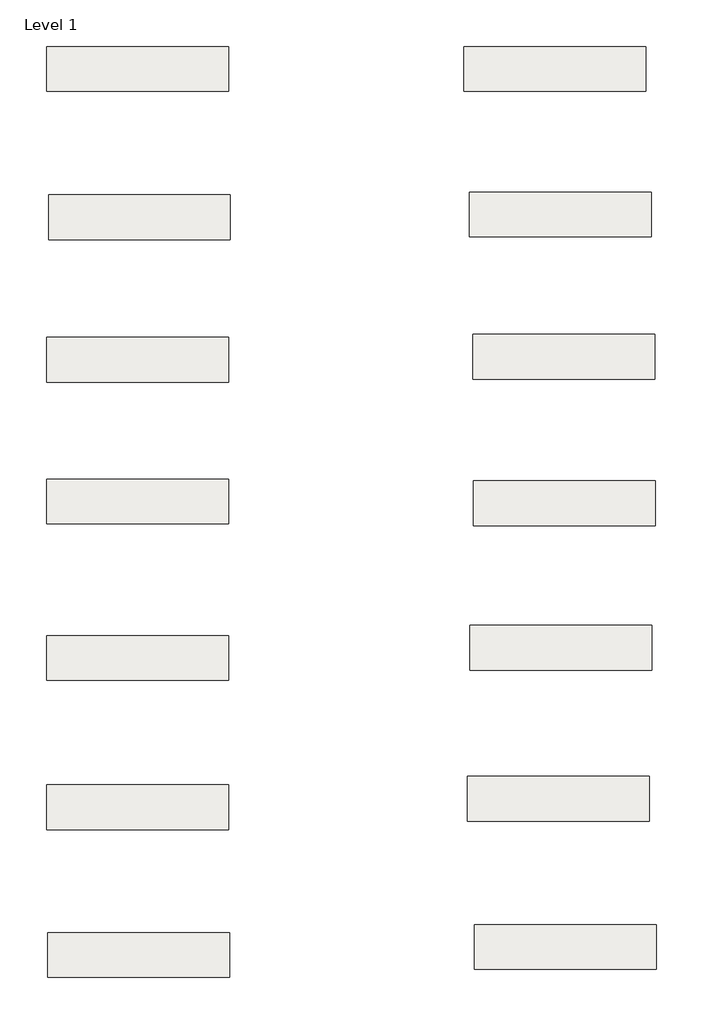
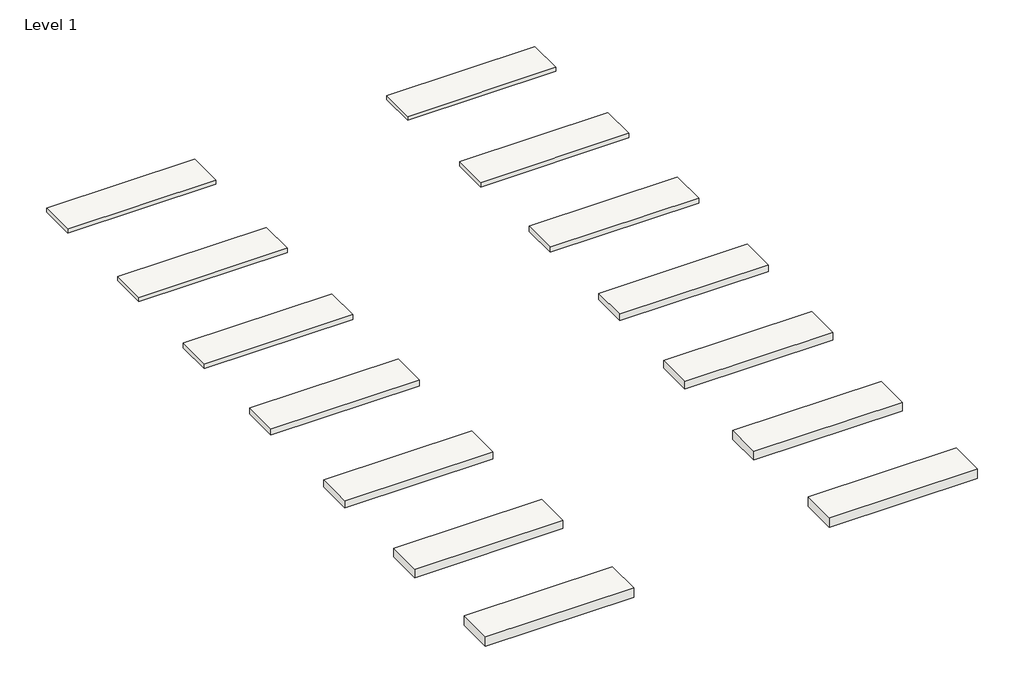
# One storey: 14 roofs.
"""IFC4 building model written with IfcOpenShell, lengths in millimetres."""

from ifc_helpers import new_model, si_unit, origin, origin_with_axes, place, context, project, spatial, polyline, outline, extrude, element, save

model = new_model("IFC4")

# Units and contexts
model_context = context("Model", 3, world=origin())
ifc_project = project(units=[si_unit("LENGTHUNIT", "METRE", prefix="MILLI")], contexts=[model_context])

# Site, building, storey
site = spatial("IfcSite", under=ifc_project)
building = spatial("IfcBuilding", under=site)
storey = spatial("IfcBuildingStorey", under=building, Name="Level 1", Elevation=0.0)

# Roofs
placement = place(None, origin())
element("IfcRoof", 1, ObjectType="Panel Thermochip TDMH 10-40-16 (2440x600)", at=placement, inside=storey, context=model_context, shape_type="SweptSolid", body=[
    extrude(outline(polyline([(-22078.9678788, 6399.8223879), (-19638.9678788, 6399.8223879), (-19638.9678788, 5799.8223879), (-22078.9678788, 5799.8223879), (-22078.9678788, 6399.8223879)])), origin_with_axes(), (0.0, 0.0, 1.0), 66.0),
])
element("IfcRoof", 2, ObjectType="Panel Thermochip TDMH 10-50-16 (2440x600)", at=placement, inside=storey, context=model_context, shape_type="SweptSolid", body=[
    extrude(outline(polyline([(-22052.6493894, 4410.3190053), (-19612.6493894, 4410.3190053), (-19612.6493894, 3810.3190053), (-22052.6493894, 3810.3190053), (-22052.6493894, 4410.3190053)])), origin_with_axes(), (0.0, 0.0, 1.0), 76.0),
])
element("IfcRoof", 3, ObjectType="Panel Thermochip TDMH 10-60-16 (2440x600)", at=placement, inside=storey, context=model_context, shape_type="SweptSolid", body=[
    extrude(outline(polyline([(-22078.9678788, 2499.8223879), (-19638.9678788, 2499.8223879), (-19638.9678788, 1899.8223879), (-22078.9678788, 1899.8223879), (-22078.9678788, 2499.8223879)])), origin_with_axes(), (0.0, 0.0, 1.0), 86.0),
])
element("IfcRoof", 4, ObjectType="Panel Thermochip TDMH 10-80-16 (2440x600)", at=placement, inside=storey, context=model_context, shape_type="SweptSolid", body=[
    extrude(outline(polyline([(-22078.9678788, 599.8223879), (-19638.9678788, 599.8223879), (-19638.9678788, -0.1776121), (-22078.9678788, -0.1776121), (-22078.9678788, 599.8223879)])), origin_with_axes(), (0.0, 0.0, 1.0), 106.0),
])
element("IfcRoof", 5, ObjectType="Panel Thermochip TDMH 10-100-16 (2440x600)", at=placement, inside=storey, context=model_context, shape_type="SweptSolid", body=[
    extrude(outline(polyline([(-22078.9678788, -1500.1776121), (-19638.9678788, -1500.1776121), (-19638.9678788, -2100.1776121), (-22078.9678788, -2100.1776121), (-22078.9678788, -1500.1776121)])), origin_with_axes(), (0.0, 0.0, 1.0), 126.0),
])
element("IfcRoof", 6, ObjectType="Panel Thermochip TDMH 10-120-16 (2440x600)", at=placement, inside=storey, context=model_context, shape_type="SweptSolid", body=[
    extrude(outline(polyline([(-22078.9678788, -3500.1776121), (-19638.9678788, -3500.1776121), (-19638.9678788, -4100.1776121), (-22078.9678788, -4100.1776121), (-22078.9678788, -3500.1776121)])), origin_with_axes(), (0.0, 0.0, 1.0), 146.0),
])
element("IfcRoof", 7, ObjectType="Panel Thermochip TDMH 10-140-16 (2440x600)", at=placement, inside=storey, context=model_context, shape_type="SweptSolid", body=[
    extrude(outline(polyline([(-22061.6630448, -5482.8727782), (-19621.6630448, -5482.8727782), (-19621.6630448, -6082.8727782), (-22061.6630448, -6082.8727782), (-22061.6630448, -5482.8727782)])), origin_with_axes(), (0.0, 0.0, 1.0), 166.0),
])
element("IfcRoof", 8, ObjectType="Panel Thermochip TDMH 10-40-19 (2440x600)", at=placement, inside=storey, context=model_context, shape_type="SweptSolid", body=[
    extrude(outline(polyline([(-16478.9678788, 6399.8223879), (-14038.9678788, 6399.8223879), (-14038.9678788, 5799.8223879), (-16478.9678788, 5799.8223879), (-16478.9678788, 6399.8223879)])), origin_with_axes(), (0.0, 0.0, 1.0), 69.0),
])
element("IfcRoof", 9, ObjectType="Panel Thermochip TDMH 10-50-19 (2440x600)", at=placement, inside=storey, context=model_context, shape_type="SweptSolid", body=[
    extrude(outline(polyline([(-16405.8564252, 4446.4134612), (-13965.8564252, 4446.4134612), (-13965.8564252, 3846.4134612), (-16405.8564252, 3846.4134612), (-16405.8564252, 4446.4134612)])), origin_with_axes(), (0.0, 0.0, 1.0), 79.0),
])
element("IfcRoof", 10, ObjectType="Panel Thermochip TDMH 10-60-19 (2440x600)", at=placement, inside=storey, context=model_context, shape_type="SweptSolid", body=[
    extrude(outline(polyline([(-16358.6086281, 2541.391354), (-13918.6086281, 2541.391354), (-13918.6086281, 1941.391354), (-16358.6086281, 1941.391354), (-16358.6086281, 2541.391354)])), origin_with_axes(), (0.0, 0.0, 1.0), 89.0),
])
element("IfcRoof", 11, ObjectType="Panel Thermochip TDMH 10-80-19 (2440x600)", at=placement, inside=storey, context=model_context, shape_type="SweptSolid", body=[
    extrude(outline(polyline([(-16347.2954523, 576.6073898), (-13907.2954523, 576.6073898), (-13907.2954523, -23.3926102), (-16347.2954523, -23.3926102), (-16347.2954523, 576.6073898)])), origin_with_axes(), (0.0, 0.0, 1.0), 109.0),
])
element("IfcRoof", 12, ObjectType="Panel Thermochip TDMH 10-100-19 (2440x600)", at=placement, inside=storey, context=model_context, shape_type="SweptSolid", body=[
    extrude(outline(polyline([(-16398.0967454, -1361.1337657), (-13958.0967454, -1361.1337657), (-13958.0967454, -1961.1337657), (-16398.0967454, -1961.1337657), (-16398.0967454, -1361.1337657)])), origin_with_axes(), (0.0, 0.0, 1.0), 129.0),
])
element("IfcRoof", 13, ObjectType="Panel Thermochip TDMH 10-120-19 (2440x600)", at=placement, inside=storey, context=model_context, shape_type="SweptSolid", body=[
    extrude(outline(polyline([(-16428.9678788, -3386.2646749), (-13988.9678788, -3386.2646749), (-13988.9678788, -3986.2646749), (-16428.9678788, -3986.2646749), (-16428.9678788, -3386.2646749)])), origin_with_axes(), (0.0, 0.0, 1.0), 149.0),
])
element("IfcRoof", 14, ObjectType="Panel Thermochip TDMH 10-140-19 (2440x600)", at=placement, inside=storey, context=model_context, shape_type="SweptSolid", body=[
    extrude(outline(polyline([(-16336.3058558, -5374.3796186), (-13896.3058558, -5374.3796186), (-13896.3058558, -5974.3796186), (-16336.3058558, -5974.3796186), (-16336.3058558, -5374.3796186)])), origin_with_axes(), (0.0, 0.0, 1.0), 169.0),
])

save(model, "model.ifc")
